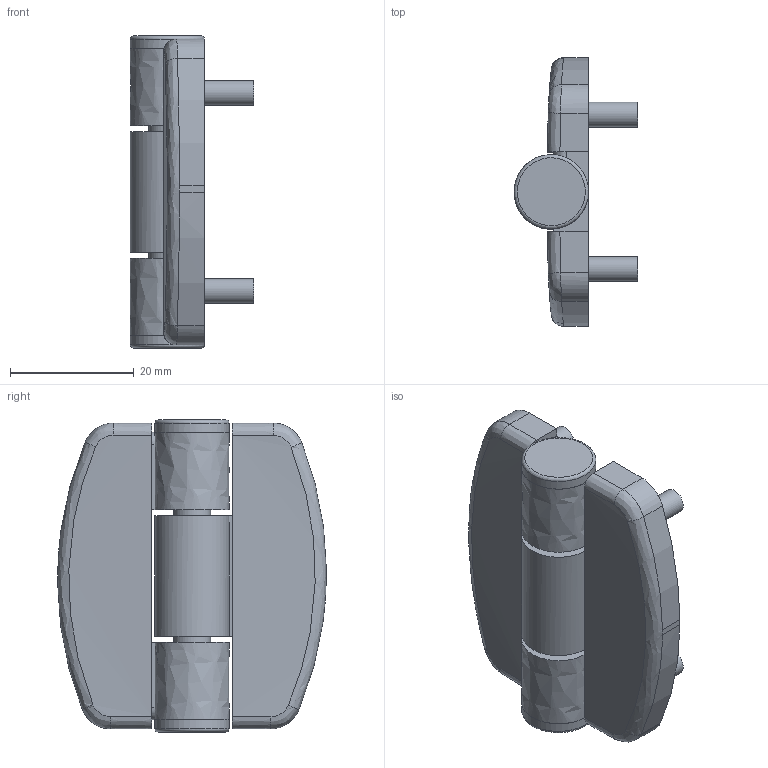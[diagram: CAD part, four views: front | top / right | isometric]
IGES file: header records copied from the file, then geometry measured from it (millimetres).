
Global section: file name: DR_H-CV042; native system: Autodesk Inventor 2015; preprocessor: unknown; author: CH.J; date: 20170823.164535; units: millimetre
Bounding box: 20 x 43.5 x 50.5 mm (x, y, z)
Volume: 15169 mm3; surface area: 13225.1 mm2
Topology: 13 solids, 13 shells, 210 faces, 500 edges, 322 vertices
Faces by surface type: bspline 210
